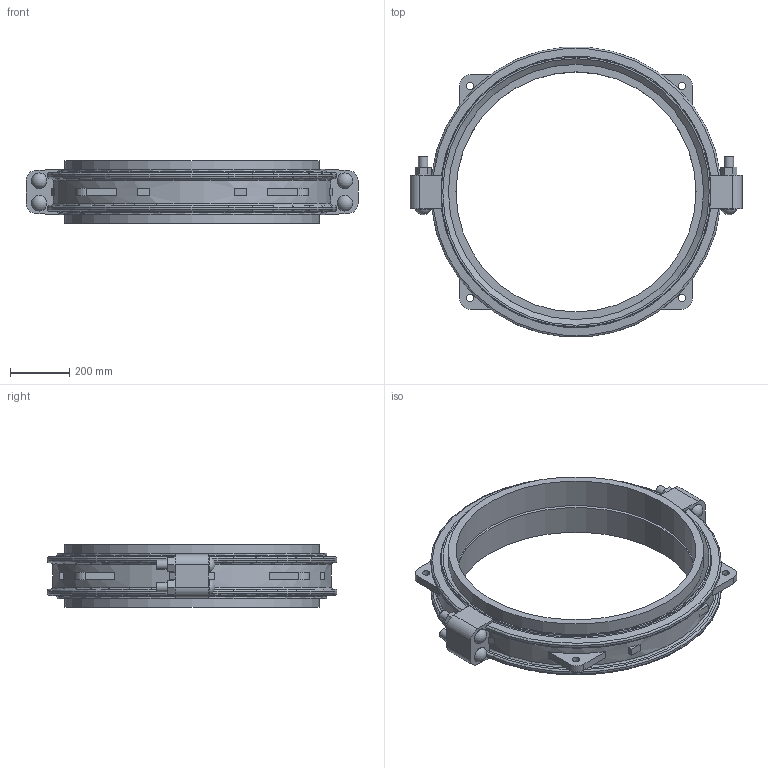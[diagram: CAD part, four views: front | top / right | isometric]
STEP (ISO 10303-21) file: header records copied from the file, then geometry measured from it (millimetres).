
FILE_DESCRIPTION(/* description */ ('VIC COUPLING FLEX STYLE W77 AGS VIC-RING ','CAx-IF Rec.Pracs.---Representation and Presentation of Product Manufacturing Information (PMI)---4.0---2014-10-13'),/* implementation_level */ '2;1');
FILE_NAME(/* name */ 'C:\Users\Vjadhav\AppData\Roaming\Autodesk\ApplicationPlugins\Victaulic.Temp\A52\Victaulic_Vic-Ring_Coupling Flexible_Style W77 (AGR)_34 (850).stp',/* time_stamp */ '2021-12-20T11:05:40+06:00',/* author */ ('Vjadhav'),/* organization */ ('Victaulic'),/* preprocessor_version */ 'ST-DEVELOPER v17.2',/* originating_system */ 'Autodesk Inventor 2019',/* authorisation */ '');
FILE_SCHEMA (('AP242_MANAGED_MODEL_BASED_3D_ENGINEERING_MIM_LF { 1 0 10303 442 1 1 4 }'));
Length unit declared in the file: inch
Products named in the file (3): W77 VR-34.0; W77 VR-34.0_1; W77 VR-34.0_2
Assembly tree (3 placements, depth 2):
  W77 VR-34.0
    W77 VR-34.0_1
    W77 VR-34.0_2  x2
Bounding box: 1123.95 x 980.65 x 211.84 mm (x, y, z)
Volume: 35924636.2 mm3; surface area: 2891484.4 mm2
Topology: 3 solids, 7 shells, 187 faces, 491 edges, 340 vertices
Faces by surface type: plane 110, cylinder 47, torus 16, cone 10, sphere 4
Full cylindrical faces by diameter (mm): 25.4 x4, 31.75 x8, 53.162 x4, 812.8 x2, 844.55 x1, 863.6 x4, 913.384 x2
Entity records: 6491 total; most frequent: CARTESIAN_POINT 1514, DIRECTION 987, ORIENTED_EDGE 962, EDGE_CURVE 481, AXIS2_PLACEMENT_3D 365, VERTEX_POINT 332, LINE 257, VECTOR 257
